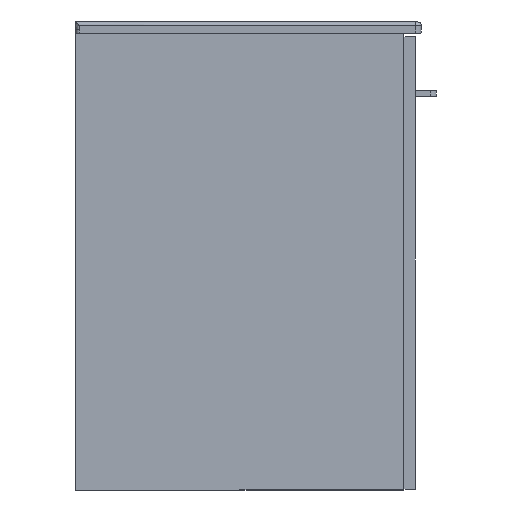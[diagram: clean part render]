
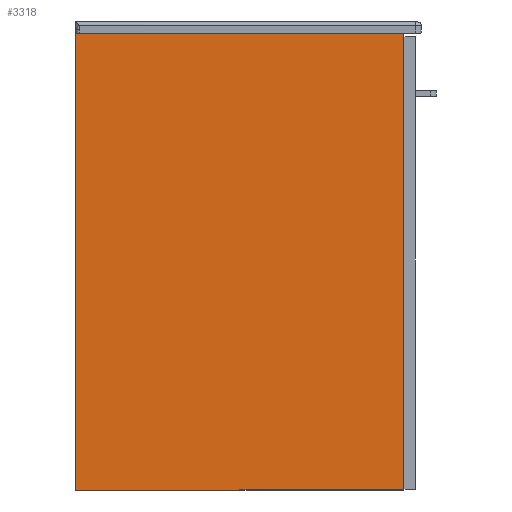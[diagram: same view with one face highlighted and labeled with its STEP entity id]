
A CAD part, left-side view. The second image highlights one B-rep face of the part: STEP entity #3318.
In plain terms, the highlighted planar face has unit normal (-1, 0, 0).
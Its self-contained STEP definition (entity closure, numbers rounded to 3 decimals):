
#154=PLANE('',#3603);
#329=LINE('',#20223,#554);
#330=LINE('',#20225,#555);
#331=LINE('',#20227,#556);
#332=LINE('',#20228,#557);
#554=VECTOR('',#4168,10.);
#555=VECTOR('',#4169,10.);
#556=VECTOR('',#4170,10.);
#557=VECTOR('',#4171,10.);
#808=FACE_OUTER_BOUND('',#998,.T.);
#998=EDGE_LOOP('',(#2817,#2818,#2819,#2820));
#1524=VERTEX_POINT('',#20221);
#1525=VERTEX_POINT('',#20222);
#1526=VERTEX_POINT('',#20224);
#1527=VERTEX_POINT('',#20226);
#1971=EDGE_CURVE('',#1524,#1525,#329,.T.);
#1972=EDGE_CURVE('',#1524,#1526,#330,.T.);
#1973=EDGE_CURVE('',#1527,#1526,#331,.T.);
#1974=EDGE_CURVE('',#1525,#1527,#332,.T.);
#2817=ORIENTED_EDGE('',*,*,#1971,.F.);
#2818=ORIENTED_EDGE('',*,*,#1972,.T.);
#2819=ORIENTED_EDGE('',*,*,#1973,.F.);
#2820=ORIENTED_EDGE('',*,*,#1974,.F.);
#3318=ADVANCED_FACE('',(#808),#154,.T.);
#3603=AXIS2_PLACEMENT_3D('',#20220,#4166,#4167);
#4166=DIRECTION('center_axis',(-1.,0.,0.));
#4167=DIRECTION('ref_axis',(0.,0.,-1.));
#4168=DIRECTION('',(0.,0.,1.));
#4169=DIRECTION('',(0.,-1.,0.));
#4170=DIRECTION('',(0.,0.,-1.));
#4171=DIRECTION('',(0.,-1.,0.));
#20220=CARTESIAN_POINT('Origin',(-394.,0.,636.));
#20221=CARTESIAN_POINT('',(-394.,0.,0.));
#20222=CARTESIAN_POINT('',(-394.,0.,636.));
#20223=CARTESIAN_POINT('',(-394.,0.,0.));
#20224=CARTESIAN_POINT('',(-394.,-456.,0.));
#20225=CARTESIAN_POINT('',(-394.,0.,0.));
#20226=CARTESIAN_POINT('',(-394.,-456.,636.));
#20227=CARTESIAN_POINT('',(-394.,-456.,0.));
#20228=CARTESIAN_POINT('',(-394.,0.,636.));
